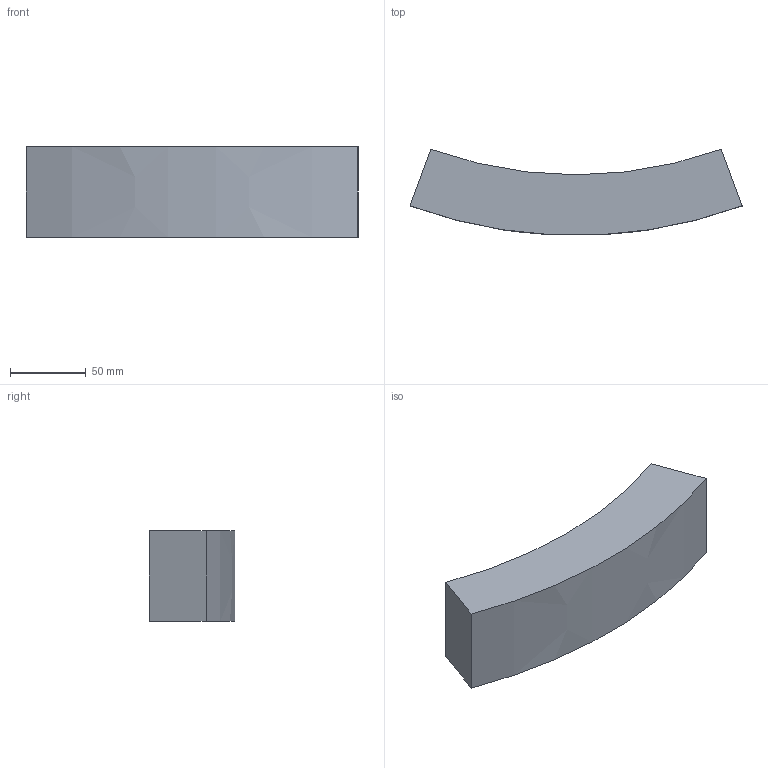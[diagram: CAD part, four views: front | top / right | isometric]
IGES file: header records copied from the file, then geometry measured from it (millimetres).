
Start section:  PTC IGES file: d160-1600_fixbloc_d280_pk-01.igs
Global section: file name: d160-1600_fixbloc_d280_pk-01.igs; native system: Creo Parametric by PTC Inc.; preprocessor: 2019030; author: demmerls; organization: Unknown; date: 20200925.143128; units: millimetre
Bounding box: 219.39 x 56.57 x 60 mm (x, y, z)
Surface area: 46787.1 mm2 (no closed solid volume)
Topology: 0 solids, 0 shells, 6 faces, 24 edges, 24 vertices
Faces by surface type: bspline 6
